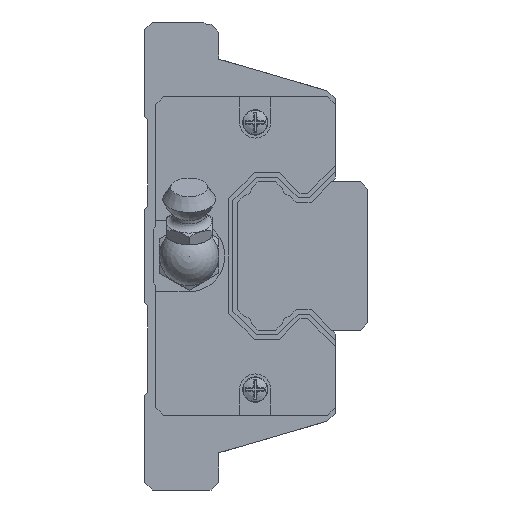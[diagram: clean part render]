
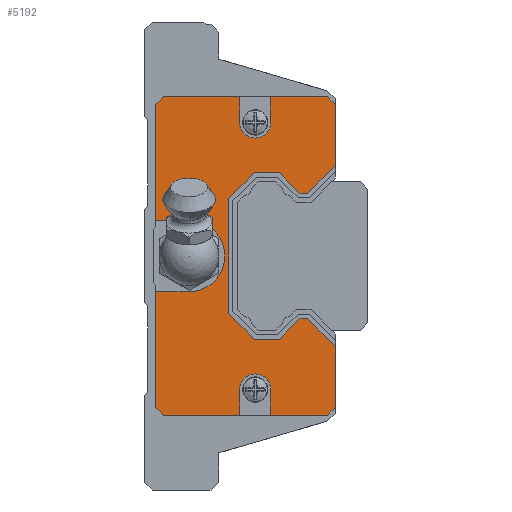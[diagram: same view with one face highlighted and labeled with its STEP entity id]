
A CAD part, left-side view. The second image highlights one B-rep face of the part: STEP entity #5192.
In plain terms, the highlighted planar face has unit normal (-1, 0, 0) as drawn and (1, 0, 0) by its records, which use the part's own axes.
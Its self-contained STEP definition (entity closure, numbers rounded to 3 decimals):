
#419=CIRCLE('',#5800,2.095);
#420=CIRCLE('',#5801,4.8);
#421=CIRCLE('',#5802,2.095);
#642=FACE_OUTER_BOUND('',#1024,.T.);
#1024=EDGE_LOOP('',(#4282,#4283,#4284,#4285,#4286,#4287,#4288,#4289,#4290,
#4291,#4292,#4293,#4294,#4295,#4296,#4297,#4298,#4299,#4300,#4301,#4302,
#4303,#4304,#4305,#4306,#4307,#4308,#4309,#4310,#4311,#4312,#4313));
#1514=LINE('',#8464,#2032);
#1522=LINE('',#8477,#2040);
#1524=LINE('',#8481,#2042);
#1525=LINE('',#8483,#2043);
#1526=LINE('',#8485,#2044);
#1527=LINE('',#8487,#2045);
#1528=LINE('',#8489,#2046);
#1529=LINE('',#8491,#2047);
#1530=LINE('',#8493,#2048);
#1531=LINE('',#8495,#2049);
#1532=LINE('',#8497,#2050);
#1533=LINE('',#8499,#2051);
#1534=LINE('',#8500,#2052);
#1535=LINE('',#8502,#2053);
#1536=LINE('',#8504,#2054);
#1537=LINE('',#8506,#2055);
#1538=LINE('',#8510,#2056);
#1539=LINE('',#8512,#2057);
#1540=LINE('',#8514,#2058);
#1541=LINE('',#8516,#2059);
#1542=LINE('',#8518,#2060);
#1543=LINE('',#8522,#2061);
#1544=LINE('',#8524,#2062);
#1545=LINE('',#8526,#2063);
#1546=LINE('',#8528,#2064);
#1547=LINE('',#8530,#2065);
#1548=LINE('',#8534,#2066);
#1549=LINE('',#8536,#2067);
#1550=LINE('',#8537,#2068);
#2032=VECTOR('',#6933,1000.);
#2040=VECTOR('',#6943,1000.);
#2042=VECTOR('',#6947,1000.);
#2043=VECTOR('',#6948,1000.);
#2044=VECTOR('',#6949,1000.);
#2045=VECTOR('',#6950,1000.);
#2046=VECTOR('',#6951,1000.);
#2047=VECTOR('',#6952,1000.);
#2048=VECTOR('',#6953,1000.);
#2049=VECTOR('',#6954,1000.);
#2050=VECTOR('',#6955,1000.);
#2051=VECTOR('',#6956,1000.);
#2052=VECTOR('',#6957,1000.);
#2053=VECTOR('',#6958,1000.);
#2054=VECTOR('',#6959,1000.);
#2055=VECTOR('',#6960,1000.);
#2056=VECTOR('',#6963,1000.);
#2057=VECTOR('',#6964,1000.);
#2058=VECTOR('',#6965,1000.);
#2059=VECTOR('',#6966,1000.);
#2060=VECTOR('',#6967,1000.);
#2061=VECTOR('',#6970,1000.);
#2062=VECTOR('',#6971,1000.);
#2063=VECTOR('',#6972,1000.);
#2064=VECTOR('',#6973,1000.);
#2065=VECTOR('',#6974,1000.);
#2066=VECTOR('',#6977,1000.);
#2067=VECTOR('',#6978,1000.);
#2068=VECTOR('',#6979,1000.);
#2555=VERTEX_POINT('',#8461);
#2556=VERTEX_POINT('',#8463);
#2559=VERTEX_POINT('',#8474);
#2560=VERTEX_POINT('',#8476);
#2561=VERTEX_POINT('',#8480);
#2562=VERTEX_POINT('',#8482);
#2563=VERTEX_POINT('',#8484);
#2564=VERTEX_POINT('',#8486);
#2565=VERTEX_POINT('',#8488);
#2566=VERTEX_POINT('',#8490);
#2567=VERTEX_POINT('',#8492);
#2568=VERTEX_POINT('',#8494);
#2569=VERTEX_POINT('',#8496);
#2570=VERTEX_POINT('',#8498);
#2571=VERTEX_POINT('',#8501);
#2572=VERTEX_POINT('',#8503);
#2573=VERTEX_POINT('',#8505);
#2574=VERTEX_POINT('',#8507);
#2575=VERTEX_POINT('',#8509);
#2576=VERTEX_POINT('',#8511);
#2577=VERTEX_POINT('',#8513);
#2578=VERTEX_POINT('',#8515);
#2579=VERTEX_POINT('',#8517);
#2580=VERTEX_POINT('',#8519);
#2581=VERTEX_POINT('',#8521);
#2582=VERTEX_POINT('',#8523);
#2583=VERTEX_POINT('',#8525);
#2584=VERTEX_POINT('',#8527);
#2585=VERTEX_POINT('',#8529);
#2586=VERTEX_POINT('',#8531);
#2587=VERTEX_POINT('',#8533);
#2588=VERTEX_POINT('',#8535);
#3160=EDGE_CURVE('',#2556,#2555,#1514,.T.);
#3168=EDGE_CURVE('',#2560,#2559,#1522,.T.);
#3170=EDGE_CURVE('',#2561,#2555,#1524,.T.);
#3171=EDGE_CURVE('',#2562,#2561,#1525,.T.);
#3172=EDGE_CURVE('',#2563,#2562,#1526,.T.);
#3173=EDGE_CURVE('',#2564,#2563,#1527,.T.);
#3174=EDGE_CURVE('',#2565,#2564,#1528,.T.);
#3175=EDGE_CURVE('',#2566,#2565,#1529,.T.);
#3176=EDGE_CURVE('',#2567,#2566,#1530,.T.);
#3177=EDGE_CURVE('',#2568,#2567,#1531,.T.);
#3178=EDGE_CURVE('',#2569,#2568,#1532,.T.);
#3179=EDGE_CURVE('',#2570,#2569,#1533,.T.);
#3180=EDGE_CURVE('',#2560,#2570,#1534,.T.);
#3181=EDGE_CURVE('',#2559,#2571,#1535,.T.);
#3182=EDGE_CURVE('',#2571,#2572,#1536,.T.);
#3183=EDGE_CURVE('',#2573,#2572,#1537,.T.);
#3184=EDGE_CURVE('',#2574,#2573,#419,.T.);
#3185=EDGE_CURVE('',#2575,#2574,#1538,.T.);
#3186=EDGE_CURVE('',#2575,#2576,#1539,.T.);
#3187=EDGE_CURVE('',#2576,#2577,#1540,.T.);
#3188=EDGE_CURVE('',#2577,#2578,#1541,.T.);
#3189=EDGE_CURVE('',#2579,#2578,#1542,.T.);
#3190=EDGE_CURVE('',#2580,#2579,#420,.T.);
#3191=EDGE_CURVE('',#2581,#2580,#1543,.T.);
#3192=EDGE_CURVE('',#2581,#2582,#1544,.T.);
#3193=EDGE_CURVE('',#2582,#2583,#1545,.T.);
#3194=EDGE_CURVE('',#2583,#2584,#1546,.T.);
#3195=EDGE_CURVE('',#2585,#2584,#1547,.T.);
#3196=EDGE_CURVE('',#2586,#2585,#421,.T.);
#3197=EDGE_CURVE('',#2587,#2586,#1548,.T.);
#3198=EDGE_CURVE('',#2587,#2588,#1549,.T.);
#3199=EDGE_CURVE('',#2588,#2556,#1550,.T.);
#4282=ORIENTED_EDGE('',*,*,#3170,.F.);
#4283=ORIENTED_EDGE('',*,*,#3171,.F.);
#4284=ORIENTED_EDGE('',*,*,#3172,.F.);
#4285=ORIENTED_EDGE('',*,*,#3173,.F.);
#4286=ORIENTED_EDGE('',*,*,#3174,.F.);
#4287=ORIENTED_EDGE('',*,*,#3175,.F.);
#4288=ORIENTED_EDGE('',*,*,#3176,.F.);
#4289=ORIENTED_EDGE('',*,*,#3177,.F.);
#4290=ORIENTED_EDGE('',*,*,#3178,.F.);
#4291=ORIENTED_EDGE('',*,*,#3179,.F.);
#4292=ORIENTED_EDGE('',*,*,#3180,.F.);
#4293=ORIENTED_EDGE('',*,*,#3168,.T.);
#4294=ORIENTED_EDGE('',*,*,#3181,.T.);
#4295=ORIENTED_EDGE('',*,*,#3182,.T.);
#4296=ORIENTED_EDGE('',*,*,#3183,.F.);
#4297=ORIENTED_EDGE('',*,*,#3184,.F.);
#4298=ORIENTED_EDGE('',*,*,#3185,.F.);
#4299=ORIENTED_EDGE('',*,*,#3186,.T.);
#4300=ORIENTED_EDGE('',*,*,#3187,.T.);
#4301=ORIENTED_EDGE('',*,*,#3188,.T.);
#4302=ORIENTED_EDGE('',*,*,#3189,.F.);
#4303=ORIENTED_EDGE('',*,*,#3190,.F.);
#4304=ORIENTED_EDGE('',*,*,#3191,.F.);
#4305=ORIENTED_EDGE('',*,*,#3192,.T.);
#4306=ORIENTED_EDGE('',*,*,#3193,.T.);
#4307=ORIENTED_EDGE('',*,*,#3194,.T.);
#4308=ORIENTED_EDGE('',*,*,#3195,.F.);
#4309=ORIENTED_EDGE('',*,*,#3196,.F.);
#4310=ORIENTED_EDGE('',*,*,#3197,.F.);
#4311=ORIENTED_EDGE('',*,*,#3198,.T.);
#4312=ORIENTED_EDGE('',*,*,#3199,.T.);
#4313=ORIENTED_EDGE('',*,*,#3160,.T.);
#4926=PLANE('',#5799);
#5192=ADVANCED_FACE('',(#642),#4926,.T.);
#5799=AXIS2_PLACEMENT_3D('',#8479,#6945,#6946);
#5800=AXIS2_PLACEMENT_3D('',#8508,#6961,#6962);
#5801=AXIS2_PLACEMENT_3D('',#8520,#6968,#6969);
#5802=AXIS2_PLACEMENT_3D('',#8532,#6975,#6976);
#6933=DIRECTION('',(0.,0.,-1.));
#6943=DIRECTION('',(0.,0.,-1.));
#6945=DIRECTION('center_axis',(1.,0.,0.));
#6946=DIRECTION('ref_axis',(0.,0.,-1.));
#6947=DIRECTION('',(0.,-0.707,0.707));
#6948=DIRECTION('',(0.,-1.,0.));
#6949=DIRECTION('',(0.,-0.707,-0.707));
#6950=DIRECTION('',(0.,-1.,0.));
#6951=DIRECTION('',(0.,-0.707,0.707));
#6952=DIRECTION('',(0.,0.,1.));
#6953=DIRECTION('',(0.,0.707,0.707));
#6954=DIRECTION('',(0.,1.,0.));
#6955=DIRECTION('',(0.,0.707,-0.707));
#6956=DIRECTION('',(0.,1.,0.));
#6957=DIRECTION('',(0.,0.707,0.707));
#6958=DIRECTION('',(0.,0.707,-0.707));
#6959=DIRECTION('',(0.,1.,0.));
#6960=DIRECTION('',(0.,0.,-1.));
#6961=DIRECTION('center_axis',(1.,0.,0.));
#6962=DIRECTION('ref_axis',(0.,0.,-1.));
#6963=DIRECTION('',(0.,0.,1.));
#6964=DIRECTION('',(0.,1.,0.));
#6965=DIRECTION('',(0.,0.707,0.707));
#6966=DIRECTION('',(0.,0.,1.));
#6967=DIRECTION('',(0.,1.,0.));
#6968=DIRECTION('center_axis',(1.,0.,0.));
#6969=DIRECTION('ref_axis',(0.,0.,-1.));
#6970=DIRECTION('',(0.,-1.,0.));
#6971=DIRECTION('',(0.,0.,1.));
#6972=DIRECTION('',(0.,-0.707,0.707));
#6973=DIRECTION('',(0.,-1.,0.));
#6974=DIRECTION('',(0.,0.,1.));
#6975=DIRECTION('center_axis',(1.,0.,0.));
#6976=DIRECTION('ref_axis',(0.,0.,-1.));
#6977=DIRECTION('',(0.,0.,-1.));
#6978=DIRECTION('',(0.,-1.,0.));
#6979=DIRECTION('',(0.,-0.707,-0.707));
#8461=CARTESIAN_POINT('',(2.,4.3,12.197));
#8463=CARTESIAN_POINT('',(2.,4.3,20.393));
#8464=CARTESIAN_POINT('',(2.,4.3,20.393));
#8474=CARTESIAN_POINT('',(2.,4.3,-20.393));
#8476=CARTESIAN_POINT('',(2.,4.3,-12.197));
#8477=CARTESIAN_POINT('',(2.,4.3,20.393));
#8479=CARTESIAN_POINT('Origin',(2.,0.,0.));
#8480=CARTESIAN_POINT('',(2.,8.069,8.428));
#8481=CARTESIAN_POINT('',(2.,8.069,8.428));
#8482=CARTESIAN_POINT('',(2.,9.083,8.428));
#8483=CARTESIAN_POINT('',(2.,9.083,8.428));
#8484=CARTESIAN_POINT('',(2.,11.855,11.2));
#8485=CARTESIAN_POINT('',(2.,11.855,11.2));
#8486=CARTESIAN_POINT('',(2.,15.225,11.2));
#8487=CARTESIAN_POINT('',(2.,15.225,11.2));
#8488=CARTESIAN_POINT('',(2.,18.7,7.725));
#8489=CARTESIAN_POINT('',(2.,18.7,7.725));
#8490=CARTESIAN_POINT('',(2.,18.7,-7.725));
#8491=CARTESIAN_POINT('',(2.,18.7,-7.725));
#8492=CARTESIAN_POINT('',(2.,15.225,-11.2));
#8493=CARTESIAN_POINT('',(2.,15.225,-11.2));
#8494=CARTESIAN_POINT('',(2.,11.855,-11.2));
#8495=CARTESIAN_POINT('',(2.,11.855,-11.2));
#8496=CARTESIAN_POINT('',(2.,9.083,-8.428));
#8497=CARTESIAN_POINT('',(2.,9.083,-8.428));
#8498=CARTESIAN_POINT('',(2.,8.069,-8.428));
#8499=CARTESIAN_POINT('',(2.,8.069,-8.428));
#8500=CARTESIAN_POINT('',(2.,4.3,-12.197));
#8501=CARTESIAN_POINT('',(2.,5.358,-21.45));
#8502=CARTESIAN_POINT('',(2.,4.3,-20.393));
#8503=CARTESIAN_POINT('',(2.,13.005,-21.45));
#8504=CARTESIAN_POINT('',(2.,5.358,-21.45));
#8505=CARTESIAN_POINT('',(2.,13.005,-17.978));
#8506=CARTESIAN_POINT('',(2.,13.005,-17.978));
#8507=CARTESIAN_POINT('',(2.,17.195,-17.978));
#8508=CARTESIAN_POINT('Origin',(2.,15.1,-17.978));
#8509=CARTESIAN_POINT('',(2.,17.195,-21.45));
#8510=CARTESIAN_POINT('',(2.,17.195,-24.45));
#8511=CARTESIAN_POINT('',(2.,27.443,-21.45));
#8512=CARTESIAN_POINT('',(2.,5.358,-21.45));
#8513=CARTESIAN_POINT('',(2.,28.5,-20.393));
#8514=CARTESIAN_POINT('',(2.,27.443,-21.45));
#8515=CARTESIAN_POINT('',(2.,28.5,-4.8));
#8516=CARTESIAN_POINT('',(2.,28.5,-20.393));
#8517=CARTESIAN_POINT('',(2.,24.,-4.8));
#8518=CARTESIAN_POINT('',(2.,24.,-4.8));
#8519=CARTESIAN_POINT('',(2.,24.,4.8));
#8520=CARTESIAN_POINT('Origin',(2.,24.,0.));
#8521=CARTESIAN_POINT('',(2.,28.5,4.8));
#8522=CARTESIAN_POINT('',(2.,28.5,4.8));
#8523=CARTESIAN_POINT('',(2.,28.5,20.393));
#8524=CARTESIAN_POINT('',(2.,28.5,-20.393));
#8525=CARTESIAN_POINT('',(2.,27.443,21.45));
#8526=CARTESIAN_POINT('',(2.,28.5,20.393));
#8527=CARTESIAN_POINT('',(2.,17.195,21.45));
#8528=CARTESIAN_POINT('',(2.,27.443,21.45));
#8529=CARTESIAN_POINT('',(2.,17.195,17.978));
#8530=CARTESIAN_POINT('',(2.,17.195,17.978));
#8531=CARTESIAN_POINT('',(2.,13.005,17.978));
#8532=CARTESIAN_POINT('Origin',(2.,15.1,17.978));
#8533=CARTESIAN_POINT('',(2.,13.005,21.45));
#8534=CARTESIAN_POINT('',(2.,13.005,21.45));
#8535=CARTESIAN_POINT('',(2.,5.358,21.45));
#8536=CARTESIAN_POINT('',(2.,27.443,21.45));
#8537=CARTESIAN_POINT('',(2.,5.358,21.45));
